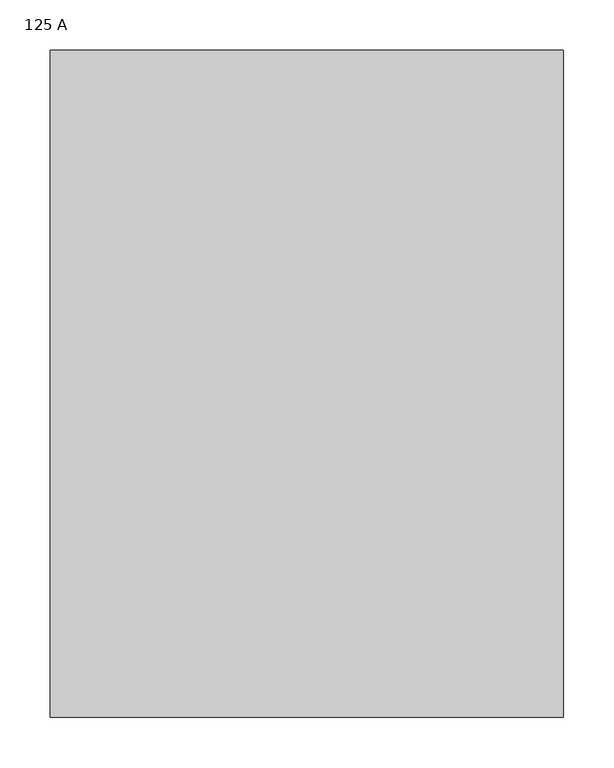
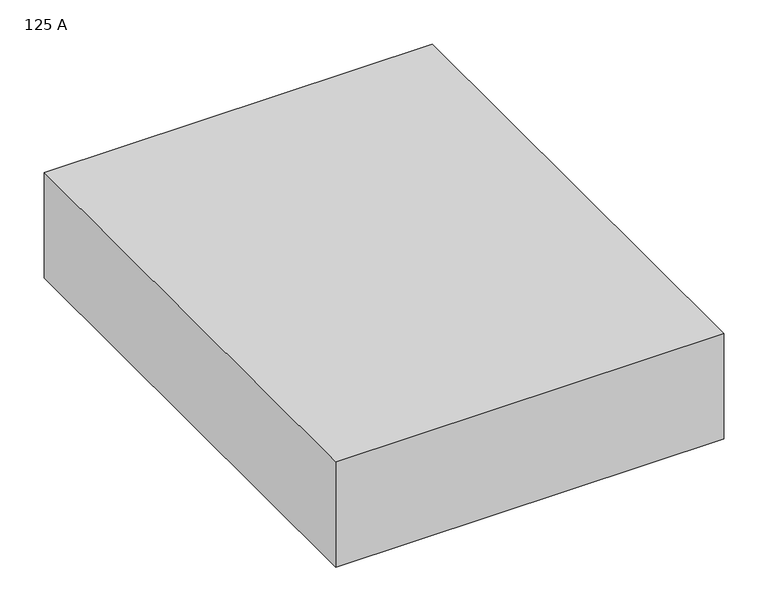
"""IFC4 building model written with IfcOpenShell, lengths in millimetres: proxy geometry, M_Cuadro de control de accesorios e iluminación - 480V MLO : 125 A."""

from ifc_helpers import new_model, si_unit, frame, origin, place, context, project, spatial, polyline, outline, extrude, source, transform, mapped, element, save


def proxy_125_a_fe578df2(model_context):
    return source(origin(), model_context, "Body", "SweptSolid", [
        extrude(outline(polyline([(254.0, 704.0725953), (254.0, 43.6725953), (-254.0, 43.6725953), (-254.0, 704.0725953), (254.0, 704.0725953)])), frame((0.0, 0.0, -146.1), z_axis=(0.0, 0.0, 1.0), x_axis=(1.0, 0.0, 0.0)), (0.0, 0.0, 1.0), 146.1),
    ])


if __name__ == "__main__":
    model = new_model("IFC4")
    model_context = context("Model", 3, world=origin())
    ifc_project = project(units=[si_unit("LENGTHUNIT", "METRE", prefix="MILLI")], contexts=[model_context])
    site = spatial("IfcSite", under=ifc_project)
    building = spatial("IfcBuilding", under=site)
    placement = place(None, origin())
    proxy_125_a_shape = proxy_125_a_fe578df2(model_context)
    element("IfcBuildingElementProxy", 1, Name="M_Cuadro de control de accesorios e iluminación - 480V MLO : 125 A", ObjectType="M_Cuadro de control de accesorios e iluminación - 480V MLO : 125 A", at=placement, inside=building, context=model_context, shape_type="MappedRepresentation", body=[
        mapped(proxy_125_a_shape, transform((0.0, 0.0, 0.0), x_axis=(1.0, 0.0, 0.0), y_axis=(0.0, 1.0, 0.0), z_axis=(0.0, 0.0, 1.0))),
    ])
    save(model, "model.ifc")
